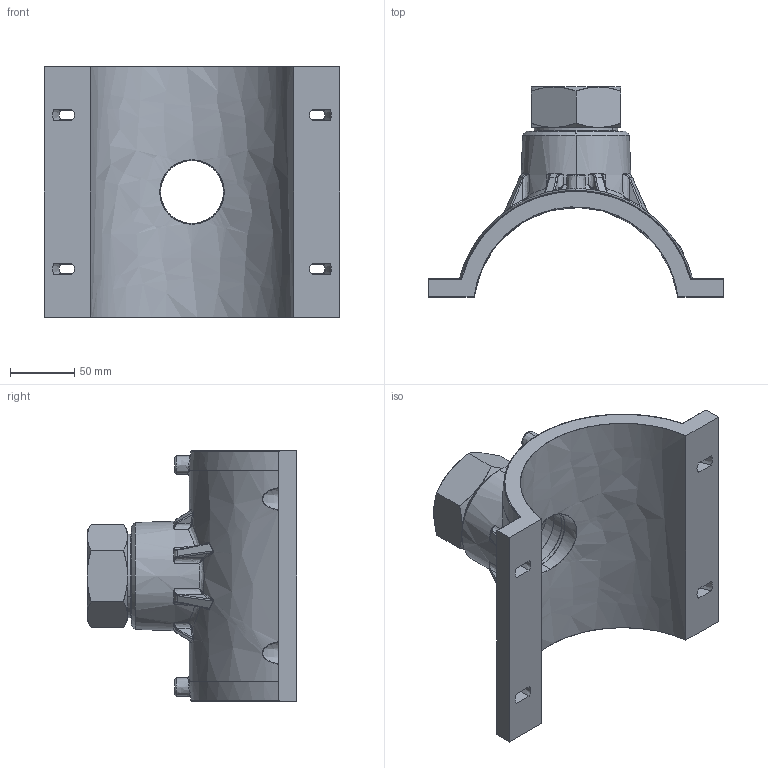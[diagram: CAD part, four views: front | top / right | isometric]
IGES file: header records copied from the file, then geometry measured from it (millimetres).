
Start section:  PTC IGES file: vam-rg_d160_2_01.igs
Global section: file name: vam-rg_d160_2_01.igs; native system: Pro/ENGINEER by Parametric Technology Corporation; preprocessor: 2011490; author: mtunjic; organization: Unknown; date: 20130909.104738; units: millimetre
Bounding box: 230 x 163.5 x 195 mm (x, y, z)
Surface area: 173733.1 mm2 (no closed solid volume)
Topology: 0 solids, 0 shells, 486 faces, 2422 edges, 2422 vertices
Faces by surface type: bspline 486
